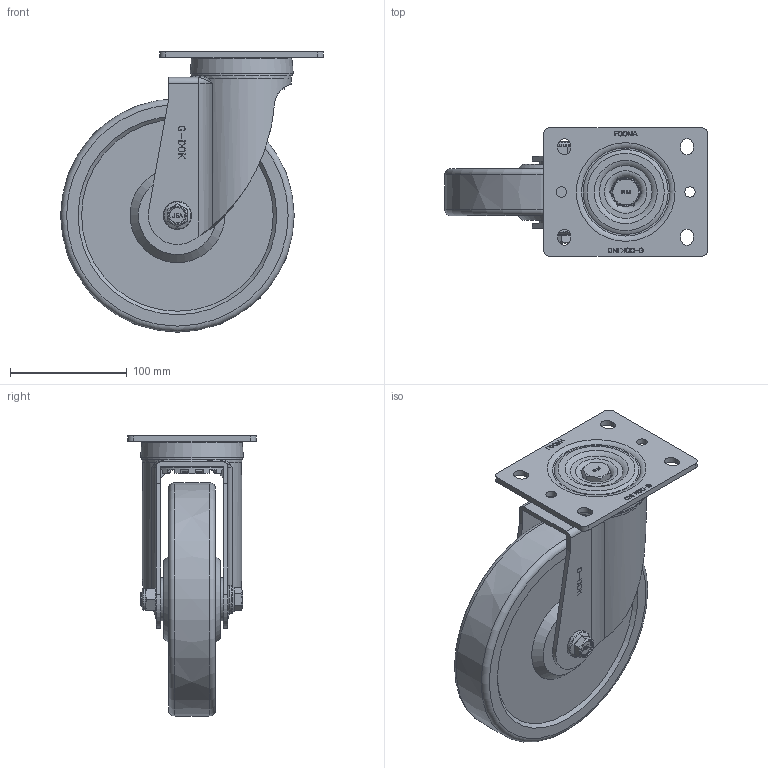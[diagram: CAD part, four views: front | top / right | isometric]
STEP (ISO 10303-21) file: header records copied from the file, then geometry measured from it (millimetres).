
FILE_DESCRIPTION(/* description */ (''),/* implementation_level */ '2;1');
FILE_NAME(/* name */ '\\192.168.10.38\지덕공유\1.기술연구소\2.연구개발 진행중\28.PLM-SERIES_MEDIUM\제품설계\홈페이지용 도면\PLM-200-ASF-MCD-PEU.stp',/* time_stamp */ '2022-03-04T18:41:33+09:00',/* author */ ('admin'),/* organization */ (''),/* preprocessor_version */ 'ST-DEVELOPER v18.1',/* originating_system */ 'Autodesk Inventor 2021',/* authorisation */ '');
FILE_SCHEMA (('AUTOMOTIVE_DESIGN { 1 0 10303 214 3 1 1 }'));
Length unit declared in the file: millimetre
Products named in the file (1): PLM-200-ASF-MCD-PEU
Bounding box: 225 x 110 x 240 mm (x, y, z)
Volume: 1476945.7 mm3; surface area: 181693.9 mm2
Topology: 1 solids, 1 shells, 1049 faces, 2896 edges, 1912 vertices
Faces by surface type: plane 725, bspline 142, cylinder 118, cone 36, torus 28
Full cylindrical faces by diameter (mm): 9 x2, 12 x1, 14 x1, 16 x1, 18.5 x1, 24 x1, 37 x2, 64.8 x1, 72.8 x1, 85.857 x1
Entity records: 36592 total; most frequent: CARTESIAN_POINT 11058, ORIENTED_EDGE 5784, DIRECTION 4473, EDGE_CURVE 2892, LINE 2041, VECTOR 2041, VERTEX_POINT 1912, AXIS2_PLACEMENT_3D 1216
